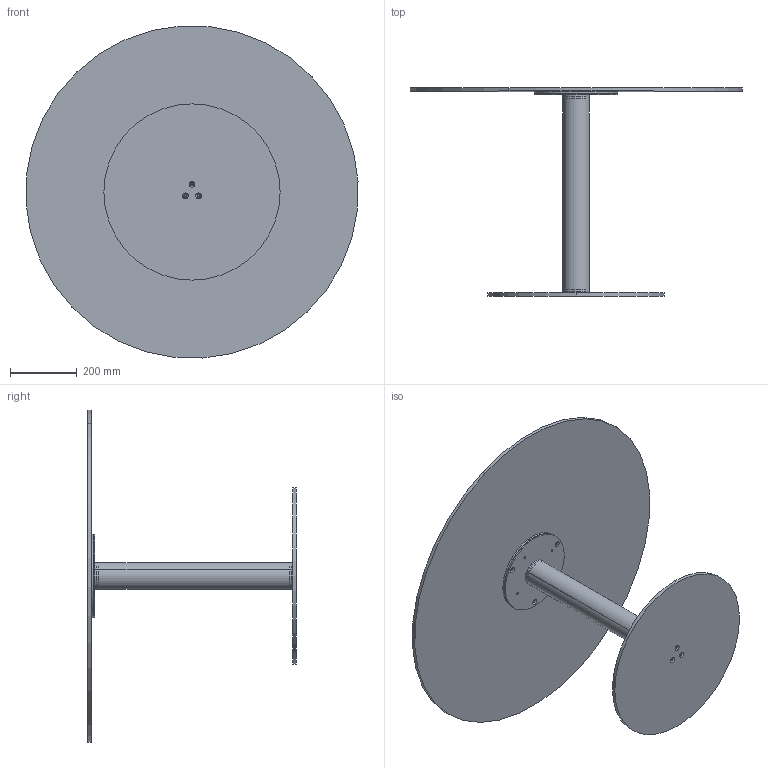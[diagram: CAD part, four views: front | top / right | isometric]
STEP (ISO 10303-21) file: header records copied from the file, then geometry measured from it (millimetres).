
FILE_DESCRIPTION (( 'STEP AP203' ), '1' );
FILE_NAME ('CB35G.STEP', '2024-08-08T08:39:45', ( '' ), ( '' ), 'SwSTEP 2.0', 'SolidWorks 2022', '' );
FILE_SCHEMA (( 'CONFIG_CONTROL_DESIGN' ));
Length unit declared in the file: millimetre
Products named in the file (9): CBS000001COL_02-00-CILINDRO BISTRO PIASTRA M8; CBS200000PST-00-CONTROPIASTRA PER PIASTRA D.25cm GREZZO_250; P0000003-00-STAFFA DI FISSAGGIO DIAMETRO 250_P0000003-250mm normale; CBS000001COL_01-00-CILINDRO BISTRO TUBO H63; CBS000000BAS-00-BISTRO PIASTRA INFERIORE_D.530; CXXCRXX-00-Piani Rotondi in Cristallo CON PIASTRA_C03P PIANO CRISTALLO D.100cm; CB35G; CBS000001COL-00-CILINDRO BISTRO COLONNA H63; C1XCRMXX-00-piani Rotondi Cristallo_C03 D.100cm
Assembly tree (9 placements, depth 3):
  CB35G
    CBS000001COL-00-CILINDRO BISTRO COLONNA H63
      CBS000001COL_01-00-CILINDRO BISTRO TUBO H63
      CBS000001COL_02-00-CILINDRO BISTRO PIASTRA M8  x2
    CBS000000BAS-00-BISTRO PIASTRA INFERIORE_D.530
    CBS200000PST-00-CONTROPIASTRA PER PIASTRA D.25cm GREZZO_250
    CXXCRXX-00-Piani Rotondi in Cristallo CON PIASTRA_C03P PIANO CRISTALLO D.100cm
      C1XCRMXX-00-piani Rotondi Cristallo_C03 D.100cm
      P0000003-00-STAFFA DI FISSAGGIO DIAMETRO 250_P0000003-250mm normale
Bounding box: 997.85 x 626 x 997.85 mm (x, y, z)
Volume: 10926693.6 mm3; surface area: 2578734.5 mm2
Topology: 7 solids, 7 shells, 104 faces, 244 edges, 154 vertices
Faces by surface type: cylinder 64, cone 26, plane 14
Entity records: 3821 total; most frequent: DIRECTION 574, CARTESIAN_POINT 466, ORIENTED_EDGE 440, AXIS2_PLACEMENT_3D 246, EDGE_CURVE 220, EDGE_LOOP 138, VERTEX_POINT 138, CIRCLE 138
